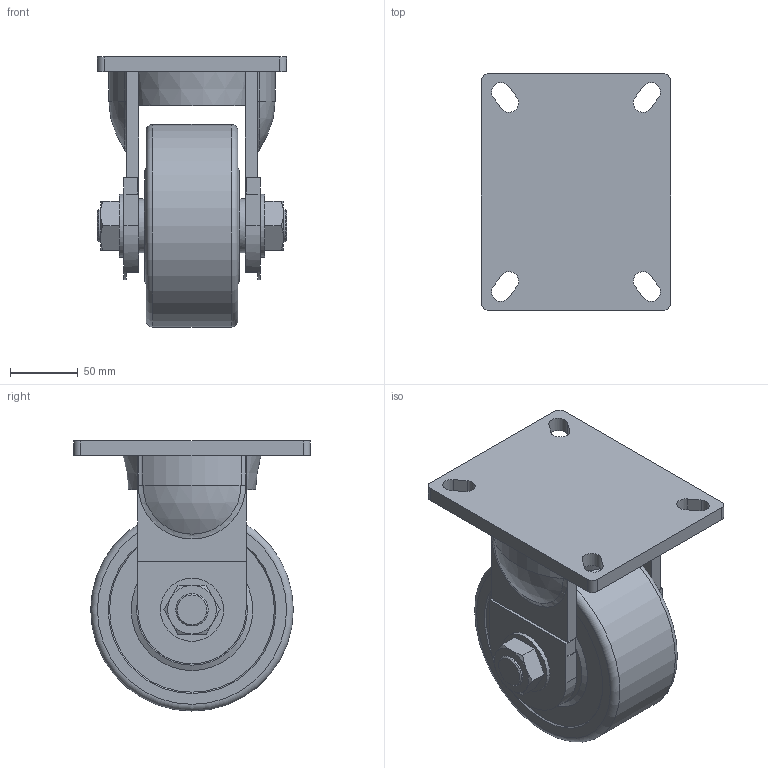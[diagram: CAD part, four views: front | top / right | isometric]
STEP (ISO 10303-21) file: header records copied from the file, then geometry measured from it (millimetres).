
FILE_DESCRIPTION((''),'2;1');
FILE_NAME('C:\Documents and Settings\Administrator\바탕 화면\3D STEP\GXT-SERIES\GXT-150\GXT-150-RF-MCD\GXT-150-RF(MCD).stp','2010-12-27T14:41:08',('Administrator'),(''),'Autodesk Inventor 2009','Autodesk Inventor 2009','');
FILE_SCHEMA(('AUTOMOTIVE_DESIGN { 1 0 10303 214 1 1 1 1 }'));
Length unit declared in the file: millimetre
Products named in the file (1): GXT-150-RF(MCD)
Bounding box: 140 x 175 x 200 mm (x, y, z)
Volume: 1732197.9 mm3; surface area: 221392.2 mm2
Topology: 8 solids, 8 shells, 228 faces, 546 edges, 354 vertices
Faces by surface type: plane 114, cylinder 70, cone 15, bspline 15, torus 10, sphere 4
Full cylindrical faces by diameter (mm): 22 x2, 24 x6, 24.3 x2, 24.5 x2, 26 x2, 30 x4, 35 x1, 40 x2, 40.667 x4, 46.7 x2, 51.333 x4, 55 x1, 62 x2, 78 x1, 150 x1
Entity records: 6878 total; most frequent: CARTESIAN_POINT 1799, DIRECTION 1062, ORIENTED_EDGE 922, EDGE_CURVE 461, AXIS2_PLACEMENT_3D 407, EDGE_LOOP 344, VERTEX_POINT 337, VECTOR 248
